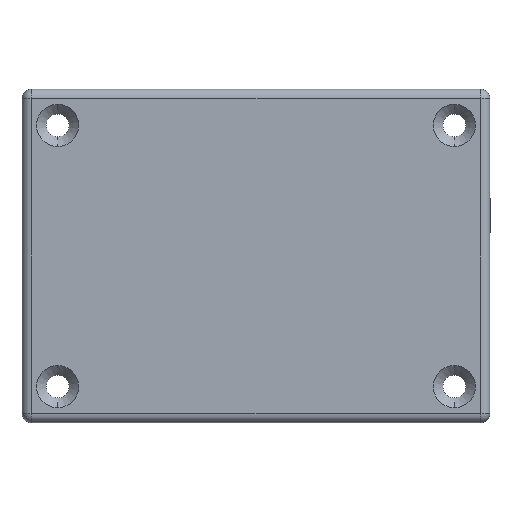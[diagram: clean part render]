
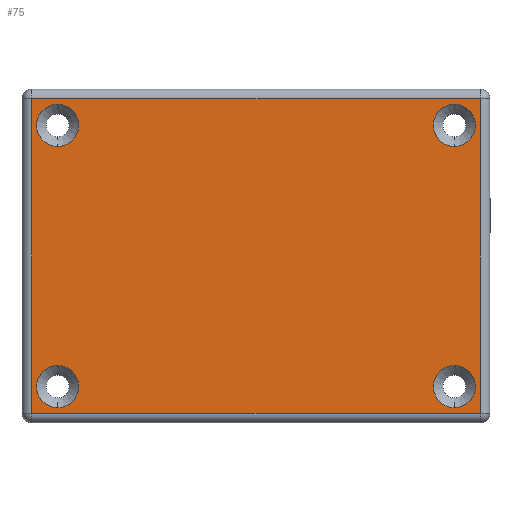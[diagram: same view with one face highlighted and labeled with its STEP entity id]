
A CAD part, front view. The second image highlights one B-rep face of the part: STEP entity #75.
In plain terms, the highlighted planar face has unit normal (0, -1, 0).
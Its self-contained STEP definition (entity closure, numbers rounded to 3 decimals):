
#67 = VERTEX_POINT ( 'NONE', #335 ) ;
#73 = VERTEX_POINT ( 'NONE', #263 ) ;
#75 = ADVANCED_FACE ( 'NONE', ( #911, #741, #766, #943, #714 ), #235, .T. ) ;
#95 = CARTESIAN_POINT ( 'NONE',  ( 23.185, 0., 16.25 ) ) ;
#108 = DIRECTION ( 'NONE',  ( 0., 0., -1. ) ) ;
#134 = ORIENTED_EDGE ( 'NONE', *, *, #489, .T. ) ;
#153 = DIRECTION ( 'NONE',  ( 0., 0., -1. ) ) ;
#188 = EDGE_LOOP ( 'NONE', ( #660, #686 ) ) ;
#195 = EDGE_LOOP ( 'NONE', ( #478, #526 ) ) ;
#202 = CARTESIAN_POINT ( 'NONE',  ( 0., 0., 0. ) ) ;
#235 = PLANE ( 'NONE',  #1935 ) ;
#263 = CARTESIAN_POINT ( 'NONE',  ( -20.5, 0., -15.675 ) ) ;
#266 = DIRECTION ( 'NONE',  ( 0., 0., -1. ) ) ;
#280 = AXIS2_PLACEMENT_3D ( 'NONE', #649, #1999, #1901 ) ;
#292 = CARTESIAN_POINT ( 'NONE',  ( -20.5, 0., 11.325 ) ) ;
#314 = AXIS2_PLACEMENT_3D ( 'NONE', #1958, #593, #1259 ) ;
#324 = DIRECTION ( 'NONE',  ( 0., 1., 0. ) ) ;
#335 = CARTESIAN_POINT ( 'NONE',  ( -23.185, 0., 16.25 ) ) ;
#368 = AXIS2_PLACEMENT_3D ( 'NONE', #1385, #1875, #266 ) ;
#436 = ORIENTED_EDGE ( 'NONE', *, *, #1862, .T. ) ;
#454 = DIRECTION ( 'NONE',  ( 0., 1., 0. ) ) ;
#461 = ORIENTED_EDGE ( 'NONE', *, *, #516, .T. ) ;
#478 = ORIENTED_EDGE ( 'NONE', *, *, #1932, .T. ) ;
#489 = EDGE_CURVE ( 'NONE', #1139, #523, #1070, .T. ) ;
#516 = EDGE_CURVE ( 'NONE', #1512, #73, #988, .T. ) ;
#521 = EDGE_CURVE ( 'NONE', #1164, #1843, #987, .T. ) ;
#523 = VERTEX_POINT ( 'NONE', #1096 ) ;
#526 = ORIENTED_EDGE ( 'NONE', *, *, #521, .T. ) ;
#560 = EDGE_CURVE ( 'NONE', #640, #891, #991, .T. ) ;
#566 = DIRECTION ( 'NONE',  ( 0., 0., -1. ) ) ;
#587 = CARTESIAN_POINT ( 'NONE',  ( -23.185, 0., -16.25 ) ) ;
#588 = EDGE_CURVE ( 'NONE', #891, #640, #849, .T. ) ;
#592 = EDGE_CURVE ( 'NONE', #67, #1667, #938, .T. ) ;
#593 = DIRECTION ( 'NONE',  ( 0., 1., 0. ) ) ;
#608 = EDGE_CURVE ( 'NONE', #1667, #1702, #805, .T. ) ;
#618 = DIRECTION ( 'NONE',  ( 1., 0., 0. ) ) ;
#628 = DIRECTION ( 'NONE',  ( 0., 1., 0. ) ) ;
#639 = VECTOR ( 'NONE', #894, 1000. ) ;
#640 = VERTEX_POINT ( 'NONE', #1048 ) ;
#645 = EDGE_CURVE ( 'NONE', #1702, #1179, #759, .T. ) ;
#649 = CARTESIAN_POINT ( 'NONE',  ( -20.5, 0., 13.5 ) ) ;
#659 = LINE ( 'NONE', #1295, #639 ) ;
#660 = ORIENTED_EDGE ( 'NONE', *, *, #588, .T. ) ;
#668 = EDGE_CURVE ( 'NONE', #1179, #67, #659, .T. ) ;
#679 = VECTOR ( 'NONE', #1054, 1000. ) ;
#686 = ORIENTED_EDGE ( 'NONE', *, *, #560, .T. ) ;
#694 = DIRECTION ( 'NONE',  ( 0., -1., 0. ) ) ;
#714 = FACE_OUTER_BOUND ( 'NONE', #1104, .T. ) ;
#717 = CARTESIAN_POINT ( 'NONE',  ( -20.5, 0., -13.5 ) ) ;
#741 = FACE_BOUND ( 'NONE', #1677, .T. ) ;
#759 = LINE ( 'NONE', #95, #679 ) ;
#761 = VECTOR ( 'NONE', #618, 1000. ) ;
#766 = FACE_BOUND ( 'NONE', #195, .T. ) ;
#773 = CARTESIAN_POINT ( 'NONE',  ( -20.5, 0., -11.325 ) ) ;
#805 = LINE ( 'NONE', #1752, #761 ) ;
#825 = VECTOR ( 'NONE', #1744, 1000. ) ;
#828 = CARTESIAN_POINT ( 'NONE',  ( 20.5, 0., 11.325 ) ) ;
#845 = ORIENTED_EDGE ( 'NONE', *, *, #592, .T. ) ;
#848 = ORIENTED_EDGE ( 'NONE', *, *, #608, .T. ) ;
#849 = CIRCLE ( 'NONE', #1409, 2.175 ) ;
#872 = ORIENTED_EDGE ( 'NONE', *, *, #645, .T. ) ;
#891 = VERTEX_POINT ( 'NONE', #828 ) ;
#894 = DIRECTION ( 'NONE',  ( -1., 0., 0. ) ) ;
#901 = ORIENTED_EDGE ( 'NONE', *, *, #668, .T. ) ;
#911 = FACE_BOUND ( 'NONE', #1604, .T. ) ;
#938 = LINE ( 'NONE', #587, #825 ) ;
#943 = FACE_BOUND ( 'NONE', #188, .T. ) ;
#987 = CIRCLE ( 'NONE', #1438, 2.175 ) ;
#988 = CIRCLE ( 'NONE', #1482, 2.175 ) ;
#991 = CIRCLE ( 'NONE', #1426, 2.175 ) ;
#1043 = CARTESIAN_POINT ( 'NONE',  ( 23.185, 0., 16.25 ) ) ;
#1048 = CARTESIAN_POINT ( 'NONE',  ( 20.5, 0., 15.675 ) ) ;
#1054 = DIRECTION ( 'NONE',  ( 0., 0., 1. ) ) ;
#1070 = CIRCLE ( 'NONE', #1506, 2.175 ) ;
#1075 = CARTESIAN_POINT ( 'NONE',  ( -20.5, 0., 15.675 ) ) ;
#1096 = CARTESIAN_POINT ( 'NONE',  ( 20.5, 0., -15.675 ) ) ;
#1104 = EDGE_LOOP ( 'NONE', ( #845, #848, #872, #901 ) ) ;
#1118 = ORIENTED_EDGE ( 'NONE', *, *, #1775, .T. ) ;
#1135 = DIRECTION ( 'NONE',  ( 0., 0., -1. ) ) ;
#1139 = VERTEX_POINT ( 'NONE', #1278 ) ;
#1164 = VERTEX_POINT ( 'NONE', #1075 ) ;
#1179 = VERTEX_POINT ( 'NONE', #1043 ) ;
#1240 = CIRCLE ( 'NONE', #314, 2.175 ) ;
#1259 = DIRECTION ( 'NONE',  ( 0., 0., -1. ) ) ;
#1278 = CARTESIAN_POINT ( 'NONE',  ( 20.5, 0., -11.325 ) ) ;
#1289 = CARTESIAN_POINT ( 'NONE',  ( -20.5, 0., 13.5 ) ) ;
#1295 = CARTESIAN_POINT ( 'NONE',  ( -23.185, 0., 16.25 ) ) ;
#1378 = CARTESIAN_POINT ( 'NONE',  ( -23.185, 0., -16.25 ) ) ;
#1385 = CARTESIAN_POINT ( 'NONE',  ( 20.5, 0., -13.5 ) ) ;
#1388 = CIRCLE ( 'NONE', #368, 2.175 ) ;
#1409 = AXIS2_PLACEMENT_3D ( 'NONE', #1774, #1652, #566 ) ;
#1426 = AXIS2_PLACEMENT_3D ( 'NONE', #1639, #628, #1135 ) ;
#1438 = AXIS2_PLACEMENT_3D ( 'NONE', #1289, #324, #1461 ) ;
#1461 = DIRECTION ( 'NONE',  ( 0., 0., -1. ) ) ;
#1482 = AXIS2_PLACEMENT_3D ( 'NONE', #717, #1761, #108 ) ;
#1506 = AXIS2_PLACEMENT_3D ( 'NONE', #2052, #454, #1625 ) ;
#1512 = VERTEX_POINT ( 'NONE', #773 ) ;
#1604 = EDGE_LOOP ( 'NONE', ( #1118, #134 ) ) ;
#1625 = DIRECTION ( 'NONE',  ( 0., 0., -1. ) ) ;
#1639 = CARTESIAN_POINT ( 'NONE',  ( 20.5, 0., 13.5 ) ) ;
#1652 = DIRECTION ( 'NONE',  ( 0., 1., 0. ) ) ;
#1667 = VERTEX_POINT ( 'NONE', #1378 ) ;
#1677 = EDGE_LOOP ( 'NONE', ( #436, #461 ) ) ;
#1702 = VERTEX_POINT ( 'NONE', #1914 ) ;
#1744 = DIRECTION ( 'NONE',  ( 0., 0., -1. ) ) ;
#1752 = CARTESIAN_POINT ( 'NONE',  ( 23.185, 0., -16.25 ) ) ;
#1761 = DIRECTION ( 'NONE',  ( 0., 1., 0. ) ) ;
#1774 = CARTESIAN_POINT ( 'NONE',  ( 20.5, 0., 13.5 ) ) ;
#1775 = EDGE_CURVE ( 'NONE', #523, #1139, #1388, .T. ) ;
#1818 = CIRCLE ( 'NONE', #280, 2.175 ) ;
#1843 = VERTEX_POINT ( 'NONE', #292 ) ;
#1862 = EDGE_CURVE ( 'NONE', #73, #1512, #1240, .T. ) ;
#1875 = DIRECTION ( 'NONE',  ( 0., 1., 0. ) ) ;
#1901 = DIRECTION ( 'NONE',  ( 0., 0., -1. ) ) ;
#1914 = CARTESIAN_POINT ( 'NONE',  ( 23.185, 0., -16.25 ) ) ;
#1932 = EDGE_CURVE ( 'NONE', #1843, #1164, #1818, .T. ) ;
#1935 = AXIS2_PLACEMENT_3D ( 'NONE', #202, #694, #153 ) ;
#1958 = CARTESIAN_POINT ( 'NONE',  ( -20.5, 0., -13.5 ) ) ;
#1999 = DIRECTION ( 'NONE',  ( 0., 1., 0. ) ) ;
#2052 = CARTESIAN_POINT ( 'NONE',  ( 20.5, 0., -13.5 ) ) ;
